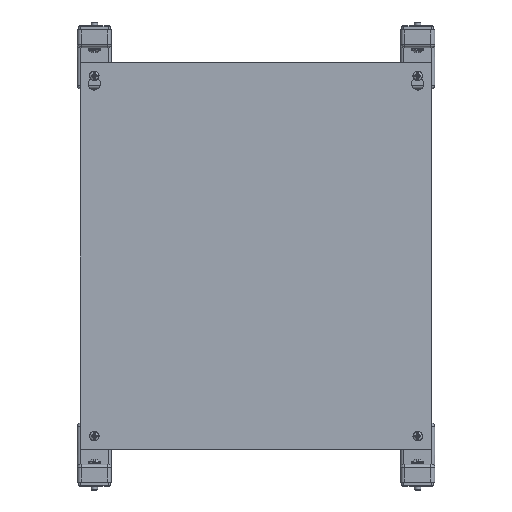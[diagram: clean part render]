
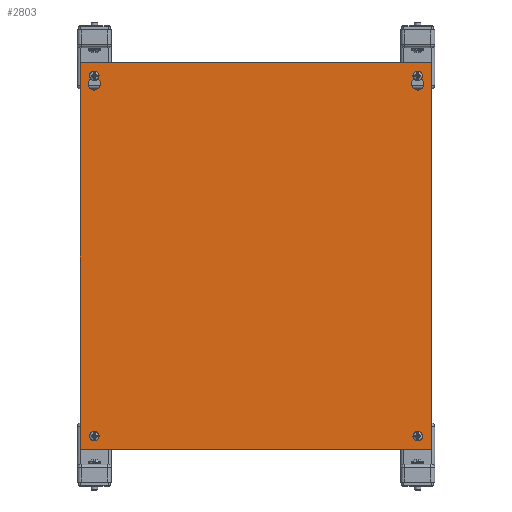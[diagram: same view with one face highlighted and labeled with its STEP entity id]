
A CAD part, front view. The second image highlights one B-rep face of the part: STEP entity #2803.
In plain terms, the highlighted planar face has unit normal (0, -1, 0).
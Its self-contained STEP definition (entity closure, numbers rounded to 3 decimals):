
#566=FACE_BOUND('',#4528,.T.);
#567=FACE_BOUND('',#4529,.T.);
#568=FACE_BOUND('',#4530,.T.);
#569=FACE_BOUND('',#4531,.T.);
#570=FACE_BOUND('',#4532,.T.);
#1091=LINE('',#17803,#1919);
#1098=LINE('',#17826,#1926);
#1100=LINE('',#17829,#1928);
#1102=LINE('',#17834,#1930);
#1109=LINE('',#17858,#1937);
#1111=LINE('',#17861,#1939);
#1113=LINE('',#17864,#1941);
#1115=LINE('',#17867,#1943);
#1919=VECTOR('',#13754,1.);
#1926=VECTOR('',#13775,1.);
#1928=VECTOR('',#13779,1.);
#1930=VECTOR('',#13783,1.);
#1937=VECTOR('',#13804,1.);
#1939=VECTOR('',#13808,1.);
#1941=VECTOR('',#13812,1.);
#1943=VECTOR('',#13816,1.);
#2803=ADVANCED_FACE('',(#566,#567,#568,#569,#570),#3487,.T.);
#3487=PLANE('',#12237);
#4528=EDGE_LOOP('',(#5693,#5694,#5695,#5696));
#4529=EDGE_LOOP('',(#5697,#5698,#5699,#5700));
#4530=EDGE_LOOP('',(#5701,#5702,#5703,#5704));
#4531=EDGE_LOOP('',(#5705));
#4532=EDGE_LOOP('',(#5706));
#5693=ORIENTED_EDGE('',*,*,#9900,.T.);
#5694=ORIENTED_EDGE('',*,*,#9932,.T.);
#5695=ORIENTED_EDGE('',*,*,#9915,.F.);
#5696=ORIENTED_EDGE('',*,*,#9930,.F.);
#5697=ORIENTED_EDGE('',*,*,#9911,.T.);
#5698=ORIENTED_EDGE('',*,*,#9908,.F.);
#5699=ORIENTED_EDGE('',*,*,#9913,.T.);
#5700=ORIENTED_EDGE('',*,*,#9903,.F.);
#5701=ORIENTED_EDGE('',*,*,#9920,.T.);
#5702=ORIENTED_EDGE('',*,*,#9928,.F.);
#5703=ORIENTED_EDGE('',*,*,#9924,.T.);
#5704=ORIENTED_EDGE('',*,*,#9926,.F.);
#5705=ORIENTED_EDGE('',*,*,#9934,.F.);
#5706=ORIENTED_EDGE('',*,*,#9936,.T.);
#8768=VERTEX_POINT('',#17802);
#8769=VERTEX_POINT('',#17804);
#8771=VERTEX_POINT('',#17809);
#8772=VERTEX_POINT('',#17811);
#8776=VERTEX_POINT('',#17820);
#8777=VERTEX_POINT('',#17822);
#8779=VERTEX_POINT('',#17833);
#8780=VERTEX_POINT('',#17835);
#8784=VERTEX_POINT('',#17844);
#8785=VERTEX_POINT('',#17846);
#8788=VERTEX_POINT('',#17853);
#8789=VERTEX_POINT('',#17855);
#8790=VERTEX_POINT('',#17871);
#8792=VERTEX_POINT('',#17876);
#9900=EDGE_CURVE('',#8769,#8768,#1091,.T.);
#9903=EDGE_CURVE('',#8771,#8772,#11510,.T.);
#9908=EDGE_CURVE('',#8776,#8777,#11513,.T.);
#9911=EDGE_CURVE('',#8771,#8777,#1098,.T.);
#9913=EDGE_CURVE('',#8776,#8772,#1100,.T.);
#9915=EDGE_CURVE('',#8779,#8780,#1102,.T.);
#9920=EDGE_CURVE('',#8785,#8784,#11515,.T.);
#9924=EDGE_CURVE('',#8789,#8788,#11517,.T.);
#9926=EDGE_CURVE('',#8785,#8788,#1109,.T.);
#9928=EDGE_CURVE('',#8789,#8784,#1111,.T.);
#9930=EDGE_CURVE('',#8769,#8779,#1113,.T.);
#9932=EDGE_CURVE('',#8768,#8780,#1115,.T.);
#9934=EDGE_CURVE('',#8790,#8790,#11518,.T.);
#9936=EDGE_CURVE('',#8792,#8792,#11520,.T.);
#11510=CIRCLE('',#12211,2.15);
#11513=CIRCLE('',#12215,4.75);
#11515=CIRCLE('',#12221,2.15);
#11517=CIRCLE('',#12224,4.75);
#11518=CIRCLE('',#12230,2.15);
#11520=CIRCLE('',#12233,2.15);
#12211=AXIS2_PLACEMENT_3D('',#17810,#13759,#13760);
#12215=AXIS2_PLACEMENT_3D('',#17821,#13769,#13770);
#12221=AXIS2_PLACEMENT_3D('',#17845,#13791,#13792);
#12224=AXIS2_PLACEMENT_3D('',#17854,#13799,#13800);
#12230=AXIS2_PLACEMENT_3D('',#17870,#13820,#13821);
#12233=AXIS2_PLACEMENT_3D('',#17875,#13826,#13827);
#12237=AXIS2_PLACEMENT_3D('',#17881,#13834,#13835);
#13754=DIRECTION('',(0.,0.,1.));
#13759=DIRECTION('',(0.,-1.,0.));
#13760=DIRECTION('',(1.,0.,0.));
#13769=DIRECTION('',(0.,-1.,0.));
#13770=DIRECTION('',(1.,0.,0.));
#13775=DIRECTION('',(0.,0.,-1.));
#13779=DIRECTION('',(0.,0.,1.));
#13783=DIRECTION('',(0.,0.,1.));
#13791=DIRECTION('',(0.,1.,0.));
#13792=DIRECTION('',(-1.,0.,0.));
#13799=DIRECTION('',(0.,1.,0.));
#13800=DIRECTION('',(-1.,0.,0.));
#13804=DIRECTION('',(0.,0.,-1.));
#13808=DIRECTION('',(0.,0.,1.));
#13812=DIRECTION('',(-1.,0.,0.));
#13816=DIRECTION('',(-1.,0.,0.));
#13820=DIRECTION('',(0.,-1.,0.));
#13821=DIRECTION('',(1.,0.,0.));
#13826=DIRECTION('',(0.,1.,0.));
#13827=DIRECTION('',(-1.,0.,0.));
#13834=DIRECTION('',(0.,-1.,0.));
#13835=DIRECTION('',(-1.,0.,0.));
#17802=CARTESIAN_POINT('',(0.,-146.,146.));
#17803=CARTESIAN_POINT('',(0.,-146.,-148.));
#17804=CARTESIAN_POINT('',(0.,-146.,-148.));
#17809=CARTESIAN_POINT('',(-8.35,-146.,136.));
#17810=CARTESIAN_POINT('',(-10.5,-146.,136.));
#17811=CARTESIAN_POINT('',(-12.65,-146.,136.));
#17820=CARTESIAN_POINT('',(-12.65,-146.,134.236));
#17821=CARTESIAN_POINT('',(-10.5,-146.,130.));
#17822=CARTESIAN_POINT('',(-8.35,-146.,134.236));
#17826=CARTESIAN_POINT('',(-8.35,-146.,136.));
#17829=CARTESIAN_POINT('',(-12.65,-146.,134.236));
#17833=CARTESIAN_POINT('',(-267.,-146.,-148.));
#17834=CARTESIAN_POINT('',(-267.,-146.,-148.));
#17835=CARTESIAN_POINT('',(-267.,-146.,146.));
#17844=CARTESIAN_POINT('',(-254.35,-146.,136.));
#17845=CARTESIAN_POINT('',(-256.5,-146.,136.));
#17846=CARTESIAN_POINT('',(-258.65,-146.,136.));
#17853=CARTESIAN_POINT('',(-258.65,-146.,134.236));
#17854=CARTESIAN_POINT('',(-256.5,-146.,130.));
#17855=CARTESIAN_POINT('',(-254.35,-146.,134.236));
#17858=CARTESIAN_POINT('',(-258.65,-146.,136.));
#17861=CARTESIAN_POINT('',(-254.35,-146.,134.236));
#17864=CARTESIAN_POINT('',(0.,-146.,-148.));
#17867=CARTESIAN_POINT('',(0.,-146.,146.));
#17870=CARTESIAN_POINT('',(-10.5,-146.,-138.));
#17871=CARTESIAN_POINT('',(-8.35,-146.,-138.));
#17875=CARTESIAN_POINT('',(-256.5,-146.,-138.));
#17876=CARTESIAN_POINT('',(-258.65,-146.,-138.));
#17881=CARTESIAN_POINT('',(-267.,-146.,-148.));
